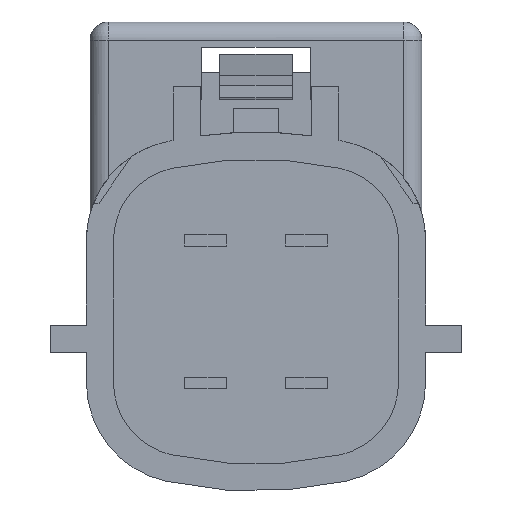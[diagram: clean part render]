
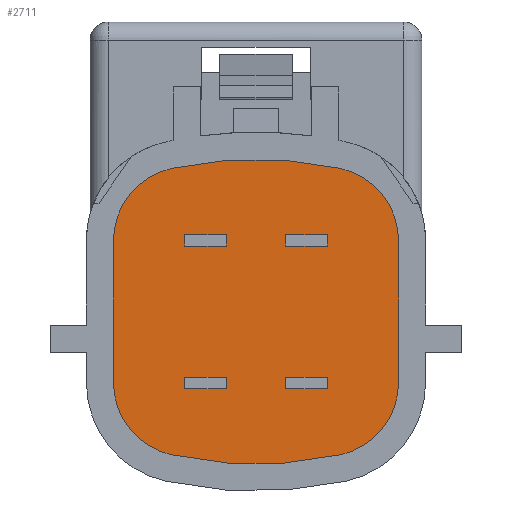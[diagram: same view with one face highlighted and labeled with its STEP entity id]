
A CAD part, left-side view. The second image highlights one B-rep face of the part: STEP entity #2711.
In plain terms, the highlighted planar face has unit normal (-1, 0, 0).
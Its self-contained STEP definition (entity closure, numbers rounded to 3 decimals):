
#2373=CARTESIAN_POINT('Axis2P3D Location',(0.,3.8,3.932)) ;
#2377=CARTESIAN_POINT('Vertex',(0.,4.69,7.935)) ;
#2379=CARTESIAN_POINT('Vertex',(0.,7.9,3.932)) ;
#2404=CARTESIAN_POINT('Line Origine',(0.,7.9,0.)) ;
#2408=CARTESIAN_POINT('Vertex',(0.,7.9,-3.932)) ;
#2428=CARTESIAN_POINT('Axis2P3D Location',(0.,3.8,-3.932)) ;
#2432=CARTESIAN_POINT('Vertex',(0.,4.69,-7.935)) ;
#2452=CARTESIAN_POINT('Axis2P3D Location',(0.,0.,-13.15)) ;
#2456=CARTESIAN_POINT('Vertex',(0.,-4.69,7.935)) ;
#2476=CARTESIAN_POINT('Axis2P3D Location',(0.,-3.8,3.932)) ;
#2480=CARTESIAN_POINT('Vertex',(0.,-7.9,3.932)) ;
#2500=CARTESIAN_POINT('Axis2P3D Location',(0.,0.,13.15)) ;
#2504=CARTESIAN_POINT('Vertex',(0.,-4.69,-7.935)) ;
#2528=CARTESIAN_POINT('Vertex',(0.,-7.9,-3.932)) ;
#2531=CARTESIAN_POINT('Line Origine',(0.,-7.9,0.)) ;
#2548=CARTESIAN_POINT('Axis2P3D Location',(0.,-3.8,-3.932)) ;
#2560=CARTESIAN_POINT('Axis2P3D Location',(0.,0.,0.)) ;
#2575=CARTESIAN_POINT('Line Origine',(0.,1.65,3.95)) ;
#2579=CARTESIAN_POINT('Vertex',(0.,1.65,3.63)) ;
#2581=CARTESIAN_POINT('Vertex',(0.,1.65,4.27)) ;
#2584=CARTESIAN_POINT('Line Origine',(0.,2.8,3.63)) ;
#2588=CARTESIAN_POINT('Vertex',(0.,3.95,3.63)) ;
#2591=CARTESIAN_POINT('Line Origine',(0.,3.95,3.95)) ;
#2595=CARTESIAN_POINT('Vertex',(0.,3.95,4.27)) ;
#2598=CARTESIAN_POINT('Line Origine',(0.,2.8,4.27)) ;
#2609=CARTESIAN_POINT('Line Origine',(0.,-3.95,3.95)) ;
#2613=CARTESIAN_POINT('Vertex',(0.,-3.95,3.63)) ;
#2615=CARTESIAN_POINT('Vertex',(0.,-3.95,4.27)) ;
#2618=CARTESIAN_POINT('Line Origine',(0.,-2.8,3.63)) ;
#2622=CARTESIAN_POINT('Vertex',(0.,-1.65,3.63)) ;
#2625=CARTESIAN_POINT('Line Origine',(0.,-1.65,3.95)) ;
#2629=CARTESIAN_POINT('Vertex',(0.,-1.65,4.27)) ;
#2632=CARTESIAN_POINT('Line Origine',(0.,-2.8,4.27)) ;
#2643=CARTESIAN_POINT('Line Origine',(0.,-3.95,-3.95)) ;
#2647=CARTESIAN_POINT('Vertex',(0.,-3.95,-4.27)) ;
#2649=CARTESIAN_POINT('Vertex',(0.,-3.95,-3.63)) ;
#2652=CARTESIAN_POINT('Line Origine',(0.,-2.8,-4.27)) ;
#2656=CARTESIAN_POINT('Vertex',(0.,-1.65,-4.27)) ;
#2659=CARTESIAN_POINT('Line Origine',(0.,-1.65,-3.95)) ;
#2663=CARTESIAN_POINT('Vertex',(0.,-1.65,-3.63)) ;
#2666=CARTESIAN_POINT('Line Origine',(0.,-2.8,-3.63)) ;
#2677=CARTESIAN_POINT('Line Origine',(0.,1.65,-3.95)) ;
#2681=CARTESIAN_POINT('Vertex',(0.,1.65,-4.27)) ;
#2683=CARTESIAN_POINT('Vertex',(0.,1.65,-3.63)) ;
#2686=CARTESIAN_POINT('Line Origine',(0.,2.8,-4.27)) ;
#2690=CARTESIAN_POINT('Vertex',(0.,3.95,-4.27)) ;
#2693=CARTESIAN_POINT('Line Origine',(0.,3.95,-3.95)) ;
#2697=CARTESIAN_POINT('Vertex',(0.,3.95,-3.63)) ;
#2700=CARTESIAN_POINT('Line Origine',(0.,2.8,-3.63)) ;
#2374=DIRECTION('Axis2P3D Direction',(1.,0.,0.)) ;
#2405=DIRECTION('Vector Direction',(0.,0.,-1.)) ;
#2429=DIRECTION('Axis2P3D Direction',(1.,0.,0.)) ;
#2453=DIRECTION('Axis2P3D Direction',(-1.,0.,0.)) ;
#2477=DIRECTION('Axis2P3D Direction',(-1.,0.,0.)) ;
#2501=DIRECTION('Axis2P3D Direction',(-1.,0.,0.)) ;
#2532=DIRECTION('Vector Direction',(0.,0.,-1.)) ;
#2549=DIRECTION('Axis2P3D Direction',(-1.,0.,0.)) ;
#2561=DIRECTION('Axis2P3D Direction',(-1.,0.,0.)) ;
#2562=DIRECTION('Axis2P3D XDirection',(-0.,-1.,-0.)) ;
#2576=DIRECTION('Vector Direction',(0.,0.,1.)) ;
#2585=DIRECTION('Vector Direction',(0.,1.,0.)) ;
#2592=DIRECTION('Vector Direction',(0.,0.,-1.)) ;
#2599=DIRECTION('Vector Direction',(0.,-1.,0.)) ;
#2610=DIRECTION('Vector Direction',(0.,0.,1.)) ;
#2619=DIRECTION('Vector Direction',(0.,1.,0.)) ;
#2626=DIRECTION('Vector Direction',(0.,0.,-1.)) ;
#2633=DIRECTION('Vector Direction',(0.,-1.,0.)) ;
#2644=DIRECTION('Vector Direction',(0.,0.,1.)) ;
#2653=DIRECTION('Vector Direction',(0.,1.,0.)) ;
#2660=DIRECTION('Vector Direction',(0.,0.,-1.)) ;
#2667=DIRECTION('Vector Direction',(0.,-1.,0.)) ;
#2678=DIRECTION('Vector Direction',(0.,0.,1.)) ;
#2687=DIRECTION('Vector Direction',(0.,1.,0.)) ;
#2694=DIRECTION('Vector Direction',(0.,0.,-1.)) ;
#2701=DIRECTION('Vector Direction',(0.,-1.,0.)) ;
#2375=AXIS2_PLACEMENT_3D('Circle Axis2P3D',#2373,#2374,$) ;
#2430=AXIS2_PLACEMENT_3D('Circle Axis2P3D',#2428,#2429,$) ;
#2454=AXIS2_PLACEMENT_3D('Circle Axis2P3D',#2452,#2453,$) ;
#2478=AXIS2_PLACEMENT_3D('Circle Axis2P3D',#2476,#2477,$) ;
#2502=AXIS2_PLACEMENT_3D('Circle Axis2P3D',#2500,#2501,$) ;
#2550=AXIS2_PLACEMENT_3D('Circle Axis2P3D',#2548,#2549,$) ;
#2563=AXIS2_PLACEMENT_3D('Plane Axis2P3D',#2560,#2561,#2562) ;
#2566=ORIENTED_EDGE('',*,*,#2458,.T.) ;
#2567=ORIENTED_EDGE('',*,*,#2381,.T.) ;
#2568=ORIENTED_EDGE('',*,*,#2410,.T.) ;
#2569=ORIENTED_EDGE('',*,*,#2434,.T.) ;
#2570=ORIENTED_EDGE('',*,*,#2506,.T.) ;
#2571=ORIENTED_EDGE('',*,*,#2552,.T.) ;
#2572=ORIENTED_EDGE('',*,*,#2535,.T.) ;
#2573=ORIENTED_EDGE('',*,*,#2482,.T.) ;
#2604=ORIENTED_EDGE('',*,*,#2583,.F.) ;
#2605=ORIENTED_EDGE('',*,*,#2590,.T.) ;
#2606=ORIENTED_EDGE('',*,*,#2597,.F.) ;
#2607=ORIENTED_EDGE('',*,*,#2602,.T.) ;
#2638=ORIENTED_EDGE('',*,*,#2617,.F.) ;
#2639=ORIENTED_EDGE('',*,*,#2624,.T.) ;
#2640=ORIENTED_EDGE('',*,*,#2631,.F.) ;
#2641=ORIENTED_EDGE('',*,*,#2636,.T.) ;
#2672=ORIENTED_EDGE('',*,*,#2651,.F.) ;
#2673=ORIENTED_EDGE('',*,*,#2658,.T.) ;
#2674=ORIENTED_EDGE('',*,*,#2665,.F.) ;
#2675=ORIENTED_EDGE('',*,*,#2670,.T.) ;
#2706=ORIENTED_EDGE('',*,*,#2685,.F.) ;
#2707=ORIENTED_EDGE('',*,*,#2692,.T.) ;
#2708=ORIENTED_EDGE('',*,*,#2699,.F.) ;
#2709=ORIENTED_EDGE('',*,*,#2704,.T.) ;
#2608=FACE_BOUND('',#2603,.T.) ;
#2642=FACE_BOUND('',#2637,.T.) ;
#2676=FACE_BOUND('',#2671,.T.) ;
#2710=FACE_BOUND('',#2705,.T.) ;
#2406=VECTOR('Line Direction',#2405,1.) ;
#2533=VECTOR('Line Direction',#2532,1.) ;
#2577=VECTOR('Line Direction',#2576,1.) ;
#2586=VECTOR('Line Direction',#2585,1.) ;
#2593=VECTOR('Line Direction',#2592,1.) ;
#2600=VECTOR('Line Direction',#2599,1.) ;
#2611=VECTOR('Line Direction',#2610,1.) ;
#2620=VECTOR('Line Direction',#2619,1.) ;
#2627=VECTOR('Line Direction',#2626,1.) ;
#2634=VECTOR('Line Direction',#2633,1.) ;
#2645=VECTOR('Line Direction',#2644,1.) ;
#2654=VECTOR('Line Direction',#2653,1.) ;
#2661=VECTOR('Line Direction',#2660,1.) ;
#2668=VECTOR('Line Direction',#2667,1.) ;
#2679=VECTOR('Line Direction',#2678,1.) ;
#2688=VECTOR('Line Direction',#2687,1.) ;
#2695=VECTOR('Line Direction',#2694,1.) ;
#2702=VECTOR('Line Direction',#2701,1.) ;
#2711=ADVANCED_FACE('TYPE_1 \X2\306E7D50679C\X0\',(#2574,#2608,#2642,#2676,#2710),#2564,.T.) ;
#2376=CIRCLE('generated circle',#2375,4.1) ;
#2431=CIRCLE('generated circle',#2430,4.1) ;
#2455=CIRCLE('generated circle',#2454,21.6) ;
#2479=CIRCLE('generated circle',#2478,4.1) ;
#2503=CIRCLE('generated circle',#2502,21.6) ;
#2551=CIRCLE('generated circle',#2550,4.1) ;
#2381=EDGE_CURVE('',#2378,#2380,#2376,.F.) ;
#2410=EDGE_CURVE('',#2380,#2409,#2407,.T.) ;
#2434=EDGE_CURVE('',#2409,#2433,#2431,.F.) ;
#2458=EDGE_CURVE('',#2457,#2378,#2455,.T.) ;
#2482=EDGE_CURVE('',#2481,#2457,#2479,.T.) ;
#2506=EDGE_CURVE('',#2433,#2505,#2503,.T.) ;
#2535=EDGE_CURVE('',#2529,#2481,#2534,.F.) ;
#2552=EDGE_CURVE('',#2505,#2529,#2551,.T.) ;
#2583=EDGE_CURVE('',#2580,#2582,#2578,.T.) ;
#2590=EDGE_CURVE('',#2580,#2589,#2587,.T.) ;
#2597=EDGE_CURVE('',#2596,#2589,#2594,.T.) ;
#2602=EDGE_CURVE('',#2596,#2582,#2601,.T.) ;
#2617=EDGE_CURVE('',#2614,#2616,#2612,.T.) ;
#2624=EDGE_CURVE('',#2614,#2623,#2621,.T.) ;
#2631=EDGE_CURVE('',#2630,#2623,#2628,.T.) ;
#2636=EDGE_CURVE('',#2630,#2616,#2635,.T.) ;
#2651=EDGE_CURVE('',#2648,#2650,#2646,.T.) ;
#2658=EDGE_CURVE('',#2648,#2657,#2655,.T.) ;
#2665=EDGE_CURVE('',#2664,#2657,#2662,.T.) ;
#2670=EDGE_CURVE('',#2664,#2650,#2669,.T.) ;
#2685=EDGE_CURVE('',#2682,#2684,#2680,.T.) ;
#2692=EDGE_CURVE('',#2682,#2691,#2689,.T.) ;
#2699=EDGE_CURVE('',#2698,#2691,#2696,.T.) ;
#2704=EDGE_CURVE('',#2698,#2684,#2703,.T.) ;
#2565=EDGE_LOOP('',(#2566,#2567,#2568,#2569,#2570,#2571,#2572,#2573)) ;
#2603=EDGE_LOOP('',(#2604,#2605,#2606,#2607)) ;
#2637=EDGE_LOOP('',(#2638,#2639,#2640,#2641)) ;
#2671=EDGE_LOOP('',(#2672,#2673,#2674,#2675)) ;
#2705=EDGE_LOOP('',(#2706,#2707,#2708,#2709)) ;
#2574=FACE_OUTER_BOUND('',#2565,.T.) ;
#2407=LINE('Line',#2404,#2406) ;
#2534=LINE('Line',#2531,#2533) ;
#2578=LINE('Line',#2575,#2577) ;
#2587=LINE('Line',#2584,#2586) ;
#2594=LINE('Line',#2591,#2593) ;
#2601=LINE('Line',#2598,#2600) ;
#2612=LINE('Line',#2609,#2611) ;
#2621=LINE('Line',#2618,#2620) ;
#2628=LINE('Line',#2625,#2627) ;
#2635=LINE('Line',#2632,#2634) ;
#2646=LINE('Line',#2643,#2645) ;
#2655=LINE('Line',#2652,#2654) ;
#2662=LINE('Line',#2659,#2661) ;
#2669=LINE('Line',#2666,#2668) ;
#2680=LINE('Line',#2677,#2679) ;
#2689=LINE('Line',#2686,#2688) ;
#2696=LINE('Line',#2693,#2695) ;
#2703=LINE('Line',#2700,#2702) ;
#2564=PLANE('',#2563) ;
#2378=VERTEX_POINT('',#2377) ;
#2380=VERTEX_POINT('',#2379) ;
#2409=VERTEX_POINT('',#2408) ;
#2433=VERTEX_POINT('',#2432) ;
#2457=VERTEX_POINT('',#2456) ;
#2481=VERTEX_POINT('',#2480) ;
#2505=VERTEX_POINT('',#2504) ;
#2529=VERTEX_POINT('',#2528) ;
#2580=VERTEX_POINT('',#2579) ;
#2582=VERTEX_POINT('',#2581) ;
#2589=VERTEX_POINT('',#2588) ;
#2596=VERTEX_POINT('',#2595) ;
#2614=VERTEX_POINT('',#2613) ;
#2616=VERTEX_POINT('',#2615) ;
#2623=VERTEX_POINT('',#2622) ;
#2630=VERTEX_POINT('',#2629) ;
#2648=VERTEX_POINT('',#2647) ;
#2650=VERTEX_POINT('',#2649) ;
#2657=VERTEX_POINT('',#2656) ;
#2664=VERTEX_POINT('',#2663) ;
#2682=VERTEX_POINT('',#2681) ;
#2684=VERTEX_POINT('',#2683) ;
#2691=VERTEX_POINT('',#2690) ;
#2698=VERTEX_POINT('',#2697) ;
